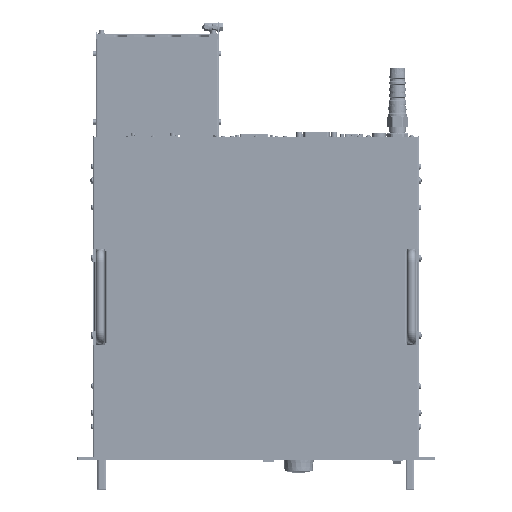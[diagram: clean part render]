
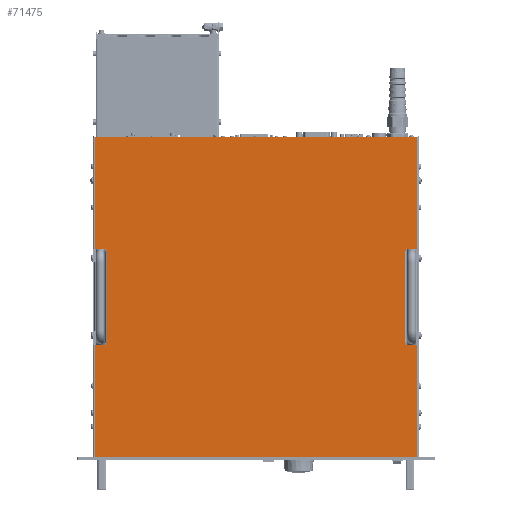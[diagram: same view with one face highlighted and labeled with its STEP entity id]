
A CAD part, top view. The second image highlights one B-rep face of the part: STEP entity #71475.
In plain terms, the highlighted planar face has unit normal (0, 0, 1).
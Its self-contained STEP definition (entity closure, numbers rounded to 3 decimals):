
#71475=ADVANCED_FACE('',(#145039),#145040,.F.);
#145039=FACE_OUTER_BOUND('',#252951,.T.);
#145040=PLANE('',#252952);
#252951=EDGE_LOOP('',(#456064,#456065,#456066,#456067,#456068,#456069,#456070,#456071,#456072,#456073,#456074,#456075,#456076,#456077,#456078,#456079,#456080,#456081,#456082,#456083));
#252952=AXIS2_PLACEMENT_3D('',#456084,#456085,#456086);
#456064=ORIENTED_EDGE('',*,*,#544409,.T.);
#456065=ORIENTED_EDGE('',*,*,#544429,.F.);
#456066=ORIENTED_EDGE('',*,*,#544430,.F.);
#456067=ORIENTED_EDGE('',*,*,#544073,.F.);
#456068=ORIENTED_EDGE('',*,*,#544395,.F.);
#456069=ORIENTED_EDGE('',*,*,#544058,.F.);
#456070=ORIENTED_EDGE('',*,*,#544384,.F.);
#456071=ORIENTED_EDGE('',*,*,#544431,.F.);
#456072=ORIENTED_EDGE('',*,*,#544427,.T.);
#456073=ORIENTED_EDGE('',*,*,#544422,.F.);
#456074=ORIENTED_EDGE('',*,*,#544419,.T.);
#456075=ORIENTED_EDGE('',*,*,#544432,.F.);
#456076=ORIENTED_EDGE('',*,*,#544360,.F.);
#456077=ORIENTED_EDGE('',*,*,#544048,.F.);
#456078=ORIENTED_EDGE('',*,*,#544349,.F.);
#456079=ORIENTED_EDGE('',*,*,#544068,.F.);
#456080=ORIENTED_EDGE('',*,*,#544433,.F.);
#456081=ORIENTED_EDGE('',*,*,#544434,.F.);
#456082=ORIENTED_EDGE('',*,*,#544406,.T.);
#456083=ORIENTED_EDGE('',*,*,#544414,.T.);
#456084=CARTESIAN_POINT('',(239.8,220.125,86.465));
#456085=DIRECTION('',(0.,0.,-1.0));
#456086=DIRECTION('',(1.0,0.,0.));
#544048=EDGE_CURVE('',#662483,#662485,#662486,.T.);
#544058=EDGE_CURVE('',#662501,#662503,#662504,.T.);
#544068=EDGE_CURVE('',#662519,#662521,#662522,.T.);
#544073=EDGE_CURVE('',#662528,#662530,#662531,.T.);
#544349=EDGE_CURVE('',#662521,#662483,#662961,.T.);
#544360=EDGE_CURVE('',#662485,#662976,#662977,.T.);
#544384=EDGE_CURVE('',#663009,#662501,#663011,.T.);
#544395=EDGE_CURVE('',#662503,#662528,#663026,.T.);
#544406=EDGE_CURVE('',#663037,#663040,#663042,.T.);
#544409=EDGE_CURVE('',#663047,#663044,#663048,.T.);
#544414=EDGE_CURVE('',#663040,#663047,#663053,.T.);
#544419=EDGE_CURVE('',#663059,#663057,#663060,.T.);
#544422=EDGE_CURVE('',#663059,#663063,#663064,.T.);
#544427=EDGE_CURVE('',#663069,#663063,#663071,.T.);
#544429=EDGE_CURVE('',#663073,#663044,#663074,.T.);
#544430=EDGE_CURVE('',#662530,#663073,#663075,.T.);
#544431=EDGE_CURVE('',#663069,#663009,#663076,.T.);
#544432=EDGE_CURVE('',#662976,#663057,#663077,.T.);
#544433=EDGE_CURVE('',#663078,#662519,#663079,.T.);
#544434=EDGE_CURVE('',#663037,#663078,#663080,.T.);
#662483=VERTEX_POINT('',#831512);
#662485=VERTEX_POINT('',#831514);
#662486=LINE('',#831515,#831516);
#662501=VERTEX_POINT('',#831534);
#662503=VERTEX_POINT('',#831536);
#662504=LINE('',#831537,#831538);
#662519=VERTEX_POINT('',#831556);
#662521=VERTEX_POINT('',#831558);
#662522=LINE('',#831559,#831560);
#662528=VERTEX_POINT('',#831567);
#662530=VERTEX_POINT('',#831569);
#662531=LINE('',#831570,#831571);
#662961=LINE('',#832122,#832123);
#662976=VERTEX_POINT('',#832143);
#662977=LINE('',#832144,#832145);
#663009=VERTEX_POINT('',#832191);
#663011=LINE('',#832194,#832195);
#663026=LINE('',#832215,#832216);
#663037=VERTEX_POINT('',#832231);
#663040=VERTEX_POINT('',#832235);
#663042=LINE('',#832237,#832238);
#663044=VERTEX_POINT('',#832240);
#663047=VERTEX_POINT('',#832244);
#663048=LINE('',#832245,#832246);
#663053=LINE('',#832251,#832252);
#663057=VERTEX_POINT('',#832257);
#663059=VERTEX_POINT('',#832260);
#663060=LINE('',#832261,#832262);
#663063=VERTEX_POINT('',#832265);
#663064=LINE('',#832266,#832267);
#663069=VERTEX_POINT('',#832272);
#663071=LINE('',#832275,#832276);
#663073=VERTEX_POINT('',#832278);
#663074=LINE('',#832279,#832280);
#663075=LINE('',#832281,#832282);
#663076=LINE('',#832283,#832284);
#663077=LINE('',#832285,#832286);
#663078=VERTEX_POINT('',#832287);
#663079=LINE('',#832288,#832289);
#663080=LINE('',#832290,#832291);
#831512=CARTESIAN_POINT('',(22.123,3.5,86.465));
#831514=CARTESIAN_POINT('',(22.123,155.5,86.465));
#831515=CARTESIAN_POINT('',(22.123,149.813,86.465));
#831516=VECTOR('',#930360,1.0);
#831534=CARTESIAN_POINT('',(22.123,284.75,86.465));
#831536=CARTESIAN_POINT('',(22.123,436.75,86.465));
#831537=CARTESIAN_POINT('',(22.123,290.438,86.465));
#831538=VECTOR('',#930376,1.0);
#831556=CARTESIAN_POINT('',(457.477,155.5,86.465));
#831558=CARTESIAN_POINT('',(457.477,3.5,86.465));
#831559=CARTESIAN_POINT('',(457.477,149.813,86.465));
#831560=VECTOR('',#930392,1.0);
#831567=CARTESIAN_POINT('',(457.477,436.75,86.465));
#831569=CARTESIAN_POINT('',(457.477,284.75,86.465));
#831570=CARTESIAN_POINT('',(457.477,290.438,86.465));
#831571=VECTOR('',#930400,1.0);
#832122=CARTESIAN_POINT('',(460.227,3.5,86.465));
#832123=VECTOR('',#930786,1.0);
#832143=CARTESIAN_POINT('',(37.373,155.5,86.465));
#832144=CARTESIAN_POINT('',(19.373,155.5,86.465));
#832145=VECTOR('',#930804,1.0);
#832191=CARTESIAN_POINT('',(37.373,284.75,86.465));
#832194=CARTESIAN_POINT('',(37.373,284.75,86.465));
#832195=VECTOR('',#930832,1.0);
#832215=CARTESIAN_POINT('',(19.373,436.75,86.465));
#832216=VECTOR('',#930850,1.0);
#832231=CARTESIAN_POINT('',(442.227,157.5,86.465));
#832235=CARTESIAN_POINT('',(440.477,157.5,86.465));
#832237=CARTESIAN_POINT('',(341.093,157.5,86.465));
#832238=VECTOR('',#930862,1.0);
#832240=CARTESIAN_POINT('',(442.227,282.75,86.465));
#832244=CARTESIAN_POINT('',(440.477,282.75,86.465));
#832245=CARTESIAN_POINT('',(341.093,282.75,86.465));
#832246=VECTOR('',#930864,1.0);
#832251=CARTESIAN_POINT('',(440.477,220.125,86.465));
#832252=VECTOR('',#930874,1.0);
#832257=CARTESIAN_POINT('',(37.373,157.5,86.465));
#832260=CARTESIAN_POINT('',(39.123,157.5,86.465));
#832261=CARTESIAN_POINT('',(138.507,157.5,86.465));
#832262=VECTOR('',#930877,1.0);
#832265=CARTESIAN_POINT('',(39.123,282.75,86.465));
#832266=CARTESIAN_POINT('',(39.123,220.125,86.465));
#832267=VECTOR('',#930881,1.0);
#832272=CARTESIAN_POINT('',(37.373,282.75,86.465));
#832275=CARTESIAN_POINT('',(138.507,282.75,86.465));
#832276=VECTOR('',#930889,1.0);
#832278=CARTESIAN_POINT('',(442.227,284.75,86.465));
#832279=CARTESIAN_POINT('',(442.227,284.75,86.465));
#832280=VECTOR('',#930890,1.0);
#832281=CARTESIAN_POINT('',(460.227,284.75,86.465));
#832282=VECTOR('',#930891,1.0);
#832283=CARTESIAN_POINT('',(37.373,282.75,86.465));
#832284=VECTOR('',#930892,1.0);
#832285=CARTESIAN_POINT('',(37.373,155.5,86.465));
#832286=VECTOR('',#930893,1.0);
#832287=CARTESIAN_POINT('',(442.227,155.5,86.465));
#832288=CARTESIAN_POINT('',(442.227,155.5,86.465));
#832289=VECTOR('',#930894,1.0);
#832290=CARTESIAN_POINT('',(442.227,157.5,86.465));
#832291=VECTOR('',#930895,1.0);
#930360=DIRECTION('',(0.0,1.0,0.));
#930376=DIRECTION('',(0.0,1.0,0.));
#930392=DIRECTION('',(0.0,-1.0,0.));
#930400=DIRECTION('',(0.0,-1.0,0.));
#930786=DIRECTION('',(-1.0,0.0,0.));
#930804=DIRECTION('',(1.0,0.0,0.0));
#930832=DIRECTION('',(-1.0,0.0,0.0));
#930850=DIRECTION('',(1.0,0.0,0.0));
#930862=DIRECTION('',(-1.0,0.0,0.0));
#930864=DIRECTION('',(1.0,0.0,0.0));
#930874=DIRECTION('',(0.0,1.0,0.));
#930877=DIRECTION('',(-1.0,0.0,0.0));
#930881=DIRECTION('',(0.0,1.0,0.));
#930889=DIRECTION('',(1.0,0.0,0.0));
#930890=DIRECTION('',(0.0,-1.0,0.));
#930891=DIRECTION('',(-1.0,0.0,0.0));
#930892=DIRECTION('',(0.0,1.0,0.));
#930893=DIRECTION('',(0.0,1.0,0.));
#930894=DIRECTION('',(1.0,0.0,0.0));
#930895=DIRECTION('',(0.0,-1.0,0.));
